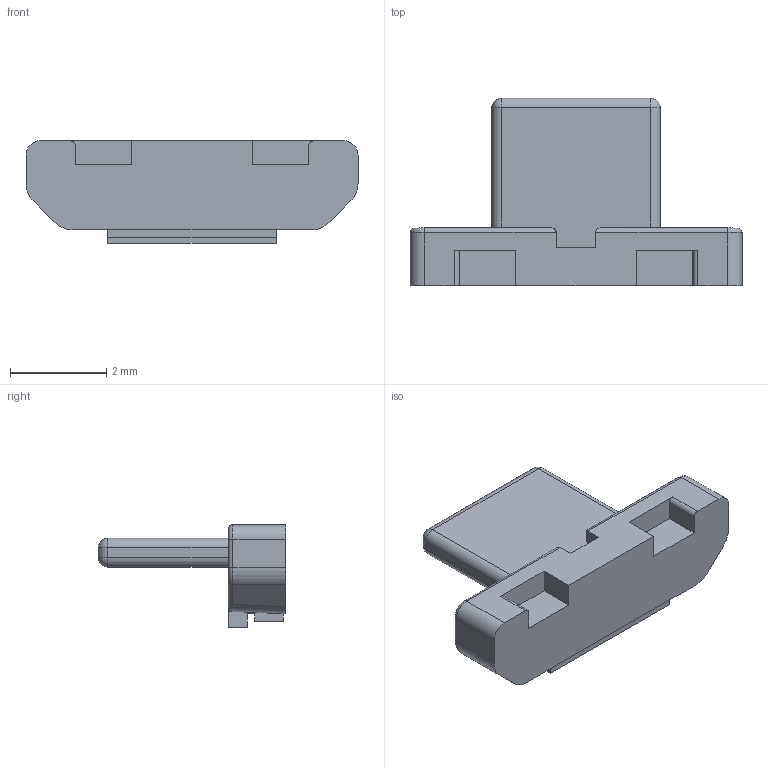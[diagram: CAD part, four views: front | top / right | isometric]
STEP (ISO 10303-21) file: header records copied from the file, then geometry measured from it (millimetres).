
FILE_DESCRIPTION(/* description */ ('STEP AP242 Edition 2','CAx-IF Rec.Pracs.---Representation and Presentation of Product Manufacturing Information (PMI)---4.0---2014-10-13','CAx-IF Rec.Pracs.---3D Tessellated Geometry---0.4---2014-09-14','2;1','CAx-IF Rec.Pracs.---User Defined Attributes---1.5---2016-08-15'),/* implementation_level */ '2;1');
FILE_NAME(/* name */ 'HIRO_Assembly - MicroUSB Port, Raspberry Pi Pico-R3',/* time_stamp */ '2026-11-04T05:23:20Z',/* author */ (''),/* organization */ (''),/* preprocessor_version */ 'ST-DEVELOPER v20',/* originating_system */ 'ONSHAPE BY PTC INC, 1.223',/* authorisation */ ' ');
FILE_SCHEMA (('AP242_MANAGED_MODEL_BASED_3D_ENGINEERING_MIM_LF { 1 0 10303 442 3 1 4 }'));
Length unit declared in the file: metre
Products named in the file (1): MicroUSB Port, Raspberry Pi Pico-R3
Bounding box: 6.9 x 3.9 x 2.13 mm (x, y, z)
Volume: 18 mm3; surface area: 84.8 mm2
Topology: 1 solids, 1 shells, 206 faces, 592 edges, 374 vertices
Faces by surface type: plane 114, cylinder 74, torus 14, sphere 4
Entity records: 6692 total; most frequent: ORIENTED_EDGE 1176, CARTESIAN_POINT 1175, DIRECTION 1148, EDGE_CURVE 588, LINE 438, VECTOR 438, VERTEX_POINT 374, AXIS2_PLACEMENT_3D 355
